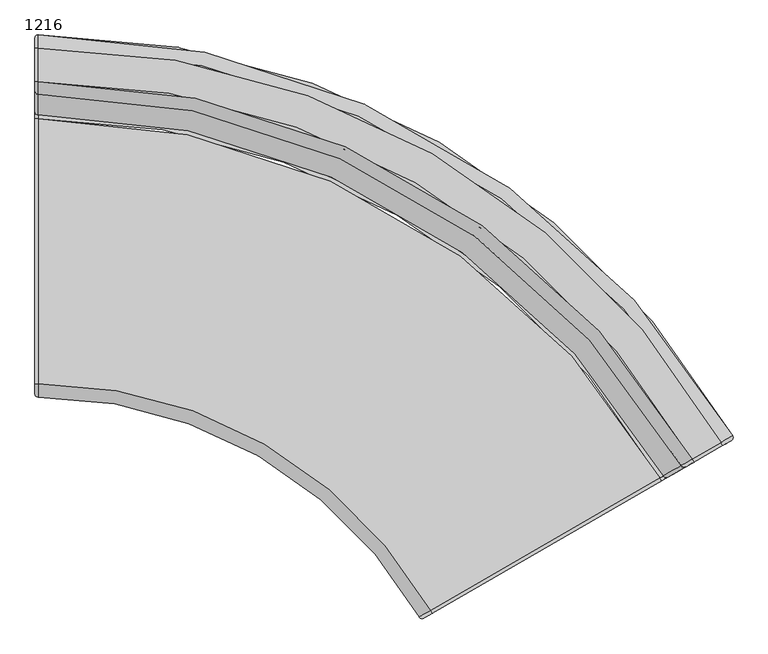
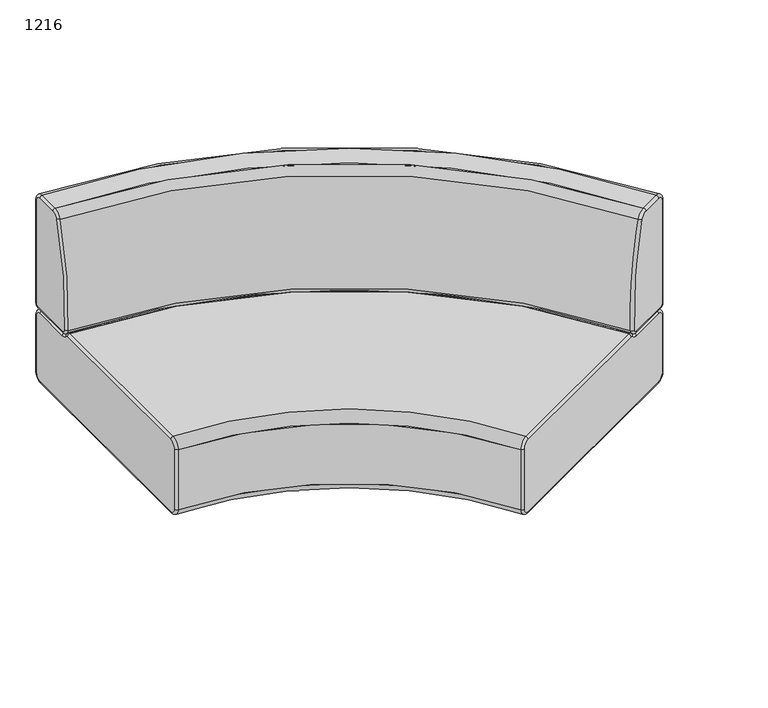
"""IFC4 building model written with IfcOpenShell, lengths in millimetres: furniture geometry, Laguna-Modular-Inside_Curve-ERG : 1216."""

from ifc_helpers import new_model, si_unit, point, frame, frame_2d, origin, place, context, project, spatial, polyline, circle_curve, ellipse_curve, trimmed, segment, composite_curve, outline, extrude, source, transform, mapped, element, save
from ifc_brep_helpers import plane_surface, cylinder_surface, revolved_surface, advanced_brep


def furniture_1216_0804f7a7(model_context):
    return source(origin(), model_context, "Body", "SolidModel", [
        extrude(outline(composite_curve([segment(polyline([(-4083.85374, 1166.2821108), (-4135.5467963, 1196.1271108)]), True, "CONTINUOUS"), segment(trimmed(circle_curve(frame_2d((-4133.0067963, 1200.5265198)), 5.08), [point((-4135.5467963, 1196.1271108))], [point((-4137.4062054, 1203.0665198))], False, "CARTESIAN"), True, "CONTINUOUS"), segment(polyline([(-4137.4062054, 1203.0665198), (-4117.7212054, 1237.16194)]), True, "CONTINUOUS"), segment(trimmed(circle_curve(frame_2d((-4113.3217963, 1234.62194)), 5.08), [point((-4117.7212054, 1237.16194))], [point((-4110.7817963, 1239.021349))], False, "CARTESIAN"), True, "CONTINUOUS"), segment(polyline([(-4110.7817963, 1239.021349), (-4059.08874, 1209.176349)]), True, "CONTINUOUS"), segment(trimmed(circle_curve(frame_2d((-4061.62874, 1204.77694)), 5.08), [point((-4059.08874, 1209.176349))], [point((-4057.2293309, 1202.23694))], False, "CARTESIAN"), True, "CONTINUOUS"), segment(polyline([(-4057.2293309, 1202.23694), (-4076.9143309, 1168.1415198)]), True, "CONTINUOUS"), segment(trimmed(circle_curve(frame_2d((-4081.31374, 1170.6815198)), 5.08), [point((-4076.9143309, 1168.1415198))], [point((-4083.85374, 1166.2821108))], False, "CARTESIAN"), True, "CONTINUOUS")], self_intersect=False)), frame((0.0, 0.0, 200.66), z_axis=(0.0, 0.0, 1.0), x_axis=(1.0, 0.0, 0.0)), (0.0, 0.0, 1.0), 2.54),
        advanced_brep(
        [(-4080.3002262, 1240.6130736, 10.16), (-4072.9510512, 1236.3700254, 10.16), (-4076.6256387, 1238.4915495, 10.16), (-4076.6256387, 1238.4915495, 0.0), (-4064.4334269, 1231.4523728, 0.0), (-4088.8178504, 1245.5307262, 0.0), (-4064.4334269, 1231.4523728, 3.9615026), (-4088.8178504, 1245.5307262, 3.9615026), (-4072.9510512, 1236.3700254, 3.9615026), (-4080.3002262, 1240.6130736, 3.9615026)],
        [
            (0, 1, circle_curve(frame((-4076.6256387, 1238.4915495, 10.16), z_axis=(0.0, 0.0, 1.0), x_axis=(0.866025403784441, -0.4999999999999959, 0.0)), 4.2430482)),
            (1, 2),
            (2, 0),
            (1, 0, circle_curve(frame((-4076.6256387, 1238.4915495, 10.16), z_axis=(0.0, 0.0, 1.0), x_axis=(0.866025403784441, -0.4999999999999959, 0.0)), 4.2430482)),
            (3, 4),
            (4, 5, circle_curve(frame((-4076.6256387, 1238.4915495, 0.0), z_axis=(0.0, 0.0, -1.0), x_axis=(0.866025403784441, -0.4999999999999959, 0.0)), 14.0783534)),
            (5, 3),
            (5, 4, circle_curve(frame((-4076.6256387, 1238.4915495, 0.0), z_axis=(0.0, 0.0, -1.0), x_axis=(0.866025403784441, -0.4999999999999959, 0.0)), 14.0783534)),
            (4, 6),
            (6, 7, circle_curve(frame((-4076.6256387, 1238.4915495, 3.9615026), z_axis=(0.0, 0.0, -1.0), x_axis=(0.866025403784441, -0.4999999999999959, 0.0)), 14.0783534)),
            (7, 5),
            (7, 6, circle_curve(frame((-4076.6256387, 1238.4915495, 3.9615026), z_axis=(0.0, 0.0, -1.0), x_axis=(0.866025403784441, -0.4999999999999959, 0.0)), 14.0783534)),
            (6, 8),
            (8, 9, circle_curve(frame((-4076.6256387, 1238.4915495, 3.9615026), z_axis=(0.0, 0.0, -1.0), x_axis=(0.866025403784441, -0.4999999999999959, 0.0)), 4.2430482)),
            (9, 7),
            (9, 8, circle_curve(frame((-4076.6256387, 1238.4915495, 3.9615026), z_axis=(0.0, 0.0, -1.0), x_axis=(0.866025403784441, -0.4999999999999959, 0.0)), 4.2430482)),
            (8, 1),
            (0, 9),
        ],
        [
            plane_surface(frame((-4076.6256387, 1238.4915495, 10.16), z_axis=(0.0, 0.0, 1.0), x_axis=(0.866025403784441, -0.4999999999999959, 0.0))),
            plane_surface(frame((-4076.6256387, 1238.4915495, 0.0), z_axis=(0.0, 0.0, -1.0), x_axis=(0.866025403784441, -0.4999999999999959, 0.0))),
            cylinder_surface(frame((-4076.6256387, 1238.4915495, 10.16), z_axis=(0.0, 0.0, -1.0), x_axis=(0.866025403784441, -0.4999999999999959, 0.0)), 14.0783534),
            plane_surface(frame((-4076.6256387, 1238.4915495, 3.9615026), z_axis=(0.0, 0.0, 1.0), x_axis=(0.866025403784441, -0.4999999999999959, 0.0))),
            cylinder_surface(frame((-4076.6256387, 1238.4915495, 10.16), z_axis=(0.0, 0.0, -1.0), x_axis=(0.866025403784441, -0.4999999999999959, 0.0)), 4.2430482),
        ],
        [
            (0, [[1, 2, 3]]),
            (0, [[4, -3, -2]]),
            (1, [[5, 6, 7]]),
            (1, [[-7, 8, -5]]),
            (2, [[-6, 9, 10, 11]]),
            (2, [[-8, -11, 12, -9]]),
            (3, [[-10, 13, 14, 15]]),
            (3, [[-12, -15, 16, -13]]),
            (4, [[-14, 17, -1, 18]]),
            (4, [[-16, -18, -4, -17]]),
        ],
    ),
        advanced_brep(
        [(-4088.0026245, 1218.786032, 207.1767944), (-4106.6329118, 1186.5174278, 199.2232056), (-4066.9751636, 1255.2066625, 10.16), (-4086.4543318, 1221.4677536, 10.16)],
        [
            (0, 1, circle_curve(frame((-4097.3177681, 1202.6517299, 203.2), z_axis=(-0.10437780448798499, -0.18078766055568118, 0.9779678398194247), x_axis=(-0.4889839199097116, -0.8469449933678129, -0.2087556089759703)), 19.05)),
            (1, 0, circle_curve(frame((-4097.3177681, 1202.6517299, 203.2), z_axis=(-0.10437780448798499, -0.18078766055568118, 0.9779678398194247), x_axis=(-0.4889839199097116, -0.8469449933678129, -0.2087556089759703)), 19.05)),
            (0, 2),
            (2, 3, ellipse_curve(frame((-4076.7147477, 1238.3372081, 10.16), z_axis=(0.0, 0.0, 1.0), x_axis=(-0.4999999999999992, -0.8660254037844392, 0.0)), 19.4791682, 19.05)),
            (3, 1),
            (3, 2, ellipse_curve(frame((-4076.7147477, 1238.3372081, 10.16), z_axis=(0.0, 0.0, 1.0), x_axis=(-0.4999999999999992, -0.8660254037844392, 0.0)), 19.4791682, 19.05)),
        ],
        [
            plane_surface(frame((-4097.3177681, 1202.6517299, 203.2), z_axis=(-0.10437780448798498, -0.18078766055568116, 0.9779678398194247), x_axis=(-0.8660254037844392, 0.4999999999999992, 0.0))),
            cylinder_surface(frame((-4097.3177681, 1202.6517299, 203.2), z_axis=(-0.10437780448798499, -0.18078766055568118, 0.9779678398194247), x_axis=(-0.4889839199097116, -0.8469449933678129, -0.2087556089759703)), 19.05),
            plane_surface(frame((-4130.6173223, 1235.5163759, 10.16), z_axis=(0.0, 0.0, -1.0), x_axis=(-0.4999999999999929, -0.8660254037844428, 0.0))),
        ],
        [
            (0, [[1, 2]]),
            (1, [[-1, 3, 4, 5]]),
            (1, [[-2, -5, 6, -3]]),
            (2, [[-4, -6]]),
        ],
    ),
        extrude(outline(composite_curve([segment(polyline([(-4068.6343555, 408.6898499), (-4098.4793555, 460.3829062)]), True, "CONTINUOUS"), segment(trimmed(circle_curve(frame_2d((-4094.0799465, 462.9229062)), 5.08), [point((-4098.4793555, 460.3829062))], [point((-4096.6199465, 467.3223153))], False, "CARTESIAN"), True, "CONTINUOUS"), segment(polyline([(-4096.6199465, 467.3223153), (-4062.5245263, 487.0073153)]), True, "CONTINUOUS"), segment(trimmed(circle_curve(frame_2d((-4059.9845263, 482.6079062)), 5.08), [point((-4062.5245263, 487.0073153))], [point((-4055.5851173, 485.1479062))], False, "CARTESIAN"), True, "CONTINUOUS"), segment(polyline([(-4055.5851173, 485.1479062), (-4025.7401173, 433.4548499)]), True, "CONTINUOUS"), segment(trimmed(circle_curve(frame_2d((-4030.1395263, 430.9148499)), 5.08), [point((-4025.7401173, 433.4548499))], [point((-4027.5995263, 426.5154408))], False, "CARTESIAN"), True, "CONTINUOUS"), segment(polyline([(-4027.5995263, 426.5154408), (-4061.6949465, 406.8304408)]), True, "CONTINUOUS"), segment(trimmed(circle_curve(frame_2d((-4064.2349465, 411.2298499)), 5.08), [point((-4061.6949465, 406.8304408))], [point((-4068.6343555, 408.6898499))], False, "CARTESIAN"), True, "CONTINUOUS")], self_intersect=False)), frame((0.0, 0.0, 200.66), z_axis=(0.0, 0.0, 1.0), x_axis=(1.0, 0.0, 0.0)), (0.0, 0.0, 1.0), 2.54),
        extrude(outline(composite_curve([segment(polyline([(-3599.3016078, 679.6592381), (-3629.1466078, 731.3522945)]), True, "CONTINUOUS"), segment(trimmed(circle_curve(frame_2d((-3624.7471988, 733.8922945)), 5.08), [point((-3629.1466078, 731.3522945))], [point((-3627.2871988, 738.2917035))], False, "CARTESIAN"), True, "CONTINUOUS"), segment(polyline([(-3627.2871988, 738.2917035), (-3593.1917786, 757.9767035)]), True, "CONTINUOUS"), segment(trimmed(circle_curve(frame_2d((-3590.6517786, 753.5772945)), 5.08), [point((-3593.1917786, 757.9767035))], [point((-3586.2523696, 756.1172945))], False, "CARTESIAN"), True, "CONTINUOUS"), segment(polyline([(-3586.2523696, 756.1172945), (-3556.4073696, 704.4242381)]), True, "CONTINUOUS"), segment(trimmed(circle_curve(frame_2d((-3560.8067786, 701.8842381)), 5.08), [point((-3556.4073696, 704.4242381))], [point((-3558.2667786, 697.484829))], False, "CARTESIAN"), True, "CONTINUOUS"), segment(polyline([(-3558.2667786, 697.484829), (-3592.3621988, 677.799829)]), True, "CONTINUOUS"), segment(trimmed(circle_curve(frame_2d((-3594.9021988, 682.1992381)), 5.08), [point((-3592.3621988, 677.799829))], [point((-3599.3016078, 679.6592381))], False, "CARTESIAN"), True, "CONTINUOUS")], self_intersect=False)), frame((0.0, 0.0, 200.66), z_axis=(0.0, 0.0, 1.0), x_axis=(1.0, 0.0, 0.0)), (0.0, 0.0, 1.0), 2.54),
        extrude(outline(composite_curve([segment(trimmed(circle_curve(frame_2d((-4739.5606322, 875.9836827)), 5.08), [point((-4739.5606322, 881.0636827))], [point((-4734.4806322, 875.9836827))], False, "CARTESIAN"), True, "CONTINUOUS"), segment(polyline([(-4734.4806322, 875.9836827), (-4734.4806322, 836.6136827)]), True, "CONTINUOUS"), segment(trimmed(circle_curve(frame_2d((-4739.5606322, 836.6136827)), 5.08), [point((-4734.4806322, 836.6136827))], [point((-4739.5606322, 831.5336827))], False, "CARTESIAN"), True, "CONTINUOUS"), segment(polyline([(-4739.5606322, 831.5336827), (-4799.2506322, 831.5336827)]), True, "CONTINUOUS"), segment(trimmed(circle_curve(frame_2d((-4799.2506322, 836.6136827)), 5.08), [point((-4799.2506322, 831.5336827))], [point((-4804.3306322, 836.6136827))], False, "CARTESIAN"), True, "CONTINUOUS"), segment(polyline([(-4804.3306322, 836.6136827), (-4804.3306322, 875.9836827)]), True, "CONTINUOUS"), segment(trimmed(circle_curve(frame_2d((-4799.2506322, 875.9836827)), 5.08), [point((-4804.3306322, 875.9836827))], [point((-4799.2506322, 881.0636827))], False, "CARTESIAN"), True, "CONTINUOUS"), segment(polyline([(-4799.2506322, 881.0636827), (-4739.5606322, 881.0636827)]), True, "CONTINUOUS")], self_intersect=False)), frame((0.0, 0.0, 200.66), z_axis=(0.0, 0.0, 1.0), x_axis=(1.0, 0.0, 0.0)), (0.0, 0.0, 1.0), 2.54),
        extrude(outline(composite_curve([segment(trimmed(circle_curve(frame_2d((-4739.5606322, 1416.9001303)), 5.08), [point((-4739.5606322, 1421.9801303))], [point((-4734.4806322, 1416.9001303))], False, "CARTESIAN"), True, "CONTINUOUS"), segment(polyline([(-4734.4806322, 1416.9001303), (-4734.4806322, 1377.5301303)]), True, "CONTINUOUS"), segment(trimmed(circle_curve(frame_2d((-4739.5606322, 1377.5301303)), 5.08), [point((-4734.4806322, 1377.5301303))], [point((-4739.5606322, 1372.4501303))], False, "CARTESIAN"), True, "CONTINUOUS"), segment(polyline([(-4739.5606322, 1372.4501303), (-4799.2506322, 1372.4501303)]), True, "CONTINUOUS"), segment(trimmed(circle_curve(frame_2d((-4799.2506322, 1377.5301303)), 5.08), [point((-4799.2506322, 1372.4501303))], [point((-4804.3306322, 1377.5301303))], False, "CARTESIAN"), True, "CONTINUOUS"), segment(polyline([(-4804.3306322, 1377.5301303), (-4804.3306322, 1416.9001303)]), True, "CONTINUOUS"), segment(trimmed(circle_curve(frame_2d((-4799.2506322, 1416.9001303)), 5.08), [point((-4804.3306322, 1416.9001303))], [point((-4799.2506322, 1421.9801303))], False, "CARTESIAN"), True, "CONTINUOUS"), segment(polyline([(-4799.2506322, 1421.9801303), (-4739.5606322, 1421.9801303)]), True, "CONTINUOUS")], self_intersect=False)), frame((0.0, 0.0, 200.66), z_axis=(0.0, 0.0, 1.0), x_axis=(1.0, 0.0, 0.0)), (0.0, 0.0, 1.0), 2.54),
        advanced_brep(
        [(-4832.9053779, 780.0986827, 228.6), (-4826.5553779, 773.7486827, 228.6), (-4826.5553779, 773.7486827, 406.4), (-4832.9053779, 780.0986827, 406.4), (-4832.9053779, 799.1486827, 425.45), (-4826.5553779, 799.1486827, 431.8), (-4826.5553779, 1301.2233489, 431.8), (-4832.9053779, 1301.2233489, 425.45), (-4826.5553779, 1312.6430873, 426.1507973), (-4832.9053779, 1307.5957246, 422.2976649), (-4826.5553779, 1326.8961182, 419.1), (-4832.9053779, 1326.8961182, 412.75), (-4826.5553779, 1435.2886296, 419.1), (-4832.9053779, 1435.2886296, 412.75), (-4826.5553779, 1460.6886296, 393.7), (-4832.9053779, 1454.3386296, 393.7), (-4826.5553779, 1460.6886296, 228.6), (-4832.9053779, 1454.3386296, 228.6), (-4826.5553779, 1435.2886296, 203.2), (-4832.9053779, 1435.2886296, 209.55), (-4826.5553779, 799.1486827, 203.2), (-4832.9053779, 799.1486827, 209.55), (-3647.3334372, 620.399244, 431.8), (-4082.1428527, 369.3619109, 431.8), (-3637.4436536, 626.1091132, 426.1507973), (-3625.1001667, 633.2356287, 419.1), (-3531.2295122, 687.4318763, 419.1), (-3509.2324531, 700.1318843, 393.7), (-3509.2324531, 700.1318843, 228.6000108), (-3531.2294983, 687.4318843, 203.2), (-4082.1428527, 369.3619109, 203.2), (-4104.139898, 356.6619109, 406.4), (-4104.139898, 356.6619109, 228.6), (-3528.0544983, 681.932623, 209.55), (-3511.5567144, 691.457623, 228.6), (-3511.5567144, 691.457623, 393.7), (-3528.0544983, 681.932623, 412.75), (-3621.9251667, 627.7363674, 412.75), (-3638.639798, 618.0861705, 422.2976649), (-3644.1584372, 614.8999827, 425.45), (-4078.9678527, 363.8626496, 425.45), (-4095.4656366, 354.3376496, 406.4), (-4095.4656366, 354.3376496, 228.6), (-4078.9678527, 363.8626496, 209.55)],
        [
            (0, 1, circle_curve(frame((-4826.5553779, 780.0986827, 228.6), z_axis=(0.0, 0.0, 1.0), x_axis=(0.0, 1.0, 0.0)), 6.35)),
            (1, 2),
            (2, 3, circle_curve(frame((-4826.5553779, 780.0986827, 406.4), z_axis=(0.0, 0.0, -1.0), x_axis=(0.0, 1.0, 0.0)), 6.35)),
            (3, 0),
            (4, 5, circle_curve(frame((-4826.5553779, 799.1486827, 425.45), z_axis=(0.0, 1.0, 0.0), x_axis=(0.0, 0.0, -1.0)), 6.35)),
            (5, 6),
            (6, 7, circle_curve(frame((-4826.5553779, 1301.2233489, 425.45), z_axis=(0.0, -1.0, 0.0), x_axis=(0.0, 0.0, -1.0)), 6.35)),
            (7, 4),
            (6, 8, circle_curve(frame((-4826.5553779, 1301.2233489, 417.4330241), z_axis=(-1.0, 0.0, 0.0), x_axis=(0.0, 0.0, 1.0)), 14.3669759)),
            (8, 9, circle_curve(frame((-4826.5553779, 1307.5957246, 422.2976649), z_axis=(0.0, -0.6067924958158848, 0.7948602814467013), x_axis=(0.0, -0.7948602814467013, -0.6067924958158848)), 6.35)),
            (9, 7, circle_curve(frame((-4832.9053779, 1301.2233489, 417.4330241), z_axis=(1.0, 0.0, 0.0), x_axis=(0.0, 0.0, 1.0)), 8.0169759)),
            (8, 10, circle_curve(frame((-4826.5553779, 1326.8961182, 437.0314921), z_axis=(1.0, 0.0, 0.0), x_axis=(0.0, -0.7948602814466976, -0.6067924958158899)), 17.9314921)),
            (10, 11, circle_curve(frame((-4826.5553779, 1326.8961182, 412.75), z_axis=(0.0, -1.0, 0.0), x_axis=(0.0, 0.0, -1.0)), 6.35)),
            (11, 9, circle_curve(frame((-4832.9053779, 1326.8961182, 437.0314921), z_axis=(-1.0, 0.0, 0.0), x_axis=(0.0, -0.7948602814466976, -0.6067924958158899)), 24.2814921)),
            (10, 12),
            (12, 13, circle_curve(frame((-4826.5553779, 1435.2886296, 412.75), z_axis=(0.0, -1.0, 0.0), x_axis=(0.0, 0.0, -1.0)), 6.35)),
            (13, 11),
            (12, 14, circle_curve(frame((-4826.5553779, 1435.2886296, 393.7), z_axis=(-1.0, 0.0, 0.0), x_axis=(0.0, 0.0, 1.0)), 25.4)),
            (14, 15, circle_curve(frame((-4826.5553779, 1454.3386296, 393.7), z_axis=(0.0, 0.0, 1.0), x_axis=(0.0, -1.0, 0.0)), 6.35)),
            (15, 13, circle_curve(frame((-4832.9053779, 1435.2886296, 393.7), z_axis=(1.0, 0.0, 0.0), x_axis=(0.0, 0.0, 1.0)), 19.05)),
            (14, 16),
            (16, 17, circle_curve(frame((-4826.5553779, 1454.3386296, 228.6), z_axis=(0.0, 0.0, 1.0), x_axis=(0.0, -1.0, 0.0)), 6.35)),
            (17, 15),
            (16, 18, circle_curve(frame((-4826.5553779, 1435.2886296, 228.6), z_axis=(-1.0, 0.0, 0.0), x_axis=(0.0, 1.0, 0.0)), 25.4)),
            (18, 19, circle_curve(frame((-4826.5553779, 1435.2886296, 209.55), z_axis=(0.0, 1.0, 0.0), x_axis=(0.0, 0.0, 1.0)), 6.35)),
            (19, 17, circle_curve(frame((-4832.9053779, 1435.2886296, 228.6), z_axis=(1.0, 0.0, 0.0), x_axis=(0.0, 1.0, 0.0)), 19.05)),
            (18, 20),
            (20, 21, circle_curve(frame((-4826.5553779, 799.1486827, 209.55), z_axis=(0.0, 1.0, 0.0), x_axis=(0.0, 0.0, 1.0)), 6.35)),
            (21, 19),
            (2, 5, circle_curve(frame((-4826.5553779, 799.1486827, 406.4), z_axis=(-1.0, 0.0, 0.0), x_axis=(0.0, -1.0, 0.0)), 25.4)),
            (4, 3, circle_curve(frame((-4832.9053779, 799.1486827, 406.4), z_axis=(1.0, 0.0, 0.0), x_axis=(0.0, -1.0, 0.0)), 19.05)),
            (0, 21, circle_curve(frame((-4832.9053779, 799.1486827, 228.6), z_axis=(1.0, 0.0, 0.0), x_axis=(0.0, 0.0, -1.0)), 19.05)),
            (20, 1, circle_curve(frame((-4826.5553779, 799.1486827, 228.6), z_axis=(-1.0, 0.0, 0.0), x_axis=(0.0, 0.0, -1.0)), 25.4)),
            (22, 6, circle_curve(frame((-4826.5553779, -60.4248609, 431.8), z_axis=(0.0, 0.0, 1.0), x_axis=(0.0, 1.0, 0.0)), 1361.6482098)),
            (5, 23, circle_curve(frame((-4826.5553779, -60.4248609, 431.8), z_axis=(0.0, 0.0, -1.0), x_axis=(0.0, 1.0, 0.0)), 859.5735436)),
            (23, 22),
            (22, 24, circle_curve(frame((-3647.3334372, 620.399244, 417.4330241), z_axis=(-0.49999999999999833, 0.8660254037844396, 0.0), x_axis=(0.8660254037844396, 0.49999999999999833, 0.0)), 14.3669759)),
            (24, 8, circle_curve(frame((-4826.5553779, -60.4248609, 426.1507973), z_axis=(0.0, 0.0, 1.0), x_axis=(0.0, 1.0, 0.0)), 1373.0679482)),
            (24, 25, circle_curve(frame((-3625.1001667, 633.2356287, 437.0314921), z_axis=(0.49999999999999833, -0.8660254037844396, 0.0), x_axis=(0.8660254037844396, 0.49999999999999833, 0.0)), 17.9314921)),
            (25, 10, circle_curve(frame((-4826.5553779, -60.4248609, 419.1), z_axis=(0.0, 0.0, 1.0), x_axis=(0.0, 1.0, 0.0)), 1387.3209791)),
            (25, 26),
            (26, 12, circle_curve(frame((-4826.5553779, -60.4248609, 419.1), z_axis=(0.0, 0.0, 1.0), x_axis=(0.0, 1.0, 0.0)), 1495.7134905)),
            (26, 27, circle_curve(frame((-3531.2294983, 687.4318843, 393.7), z_axis=(-0.49999999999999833, 0.8660254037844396, 0.0), x_axis=(0.8660254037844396, 0.49999999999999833, 0.0)), 25.4)),
            (27, 14, circle_curve(frame((-4826.5553779, -60.4248609, 393.7), z_axis=(0.0, 0.0, 1.0), x_axis=(0.0, 1.0, 0.0)), 1521.1134905)),
            (27, 28),
            (28, 16, circle_curve(frame((-4826.5553779, -60.4248609, 228.6), z_axis=(0.0, 0.0, 1.0), x_axis=(0.0, 1.0, 0.0)), 1521.1134905)),
            (28, 29, circle_curve(frame((-3531.2294983, 687.4318843, 228.6), z_axis=(-0.49999999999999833, 0.8660254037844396, 0.0), x_axis=(0.8660254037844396, 0.49999999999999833, 0.0)), 25.4)),
            (29, 18, circle_curve(frame((-4826.5553779, -60.4248609, 203.2), z_axis=(0.0, 0.0, 1.0), x_axis=(0.0, 1.0, 0.0)), 1495.7134905)),
            (29, 30),
            (30, 20, circle_curve(frame((-4826.5553779, -60.4248609, 203.2), z_axis=(0.0, 0.0, 1.0), x_axis=(0.0, 1.0, 0.0)), 859.5735436)),
            (31, 2, circle_curve(frame((-4826.5553779, -60.4248609, 406.4), z_axis=(0.0, 0.0, 1.0), x_axis=(0.0, 1.0, 0.0)), 834.1735436)),
            (1, 32, circle_curve(frame((-4826.5553779, -60.4248609, 228.6), z_axis=(0.0, 0.0, -1.0), x_axis=(0.0, 1.0, 0.0)), 834.1735436)),
            (32, 31),
            (31, 23, circle_curve(frame((-4082.1428527, 369.3619109, 406.4), z_axis=(-0.4999999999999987, 0.8660254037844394, 0.0), x_axis=(0.8660254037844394, 0.4999999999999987, 0.0)), 25.4)),
            (30, 32, circle_curve(frame((-4082.1428527, 369.3619109, 228.6), z_axis=(-0.4999999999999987, 0.8660254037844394, 0.0), x_axis=(0.8660254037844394, 0.4999999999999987, 0.0)), 25.4)),
            (33, 29, circle_curve(frame((-3531.2294983, 687.4318843, 209.55), z_axis=(0.8660254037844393, 0.499999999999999, 0.0), x_axis=(0.0, 0.0, 1.0)), 6.35)),
            (28, 34, circle_curve(frame((-3514.7317144, 696.9568843, 228.6), z_axis=(0.0, 0.0, -1.0), x_axis=(-0.8660254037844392, -0.4999999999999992, 0.0)), 6.35)),
            (34, 33, circle_curve(frame((-3528.0544983, 681.932623, 228.6), z_axis=(-0.499999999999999, 0.8660254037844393, 0.0), x_axis=(0.0, 0.0, -1.0)), 19.05)),
            (27, 35, circle_curve(frame((-3514.7317144, 696.9568843, 393.7), z_axis=(0.0, 0.0, -1.0), x_axis=(-0.8660254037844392, -0.4999999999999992, 0.0)), 6.35)),
            (35, 34),
            (26, 36, circle_curve(frame((-3531.2294983, 687.4318843, 412.75), z_axis=(0.8660254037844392, 0.4999999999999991, 0.0), x_axis=(0.0, 0.0, -1.0)), 6.35)),
            (36, 35, circle_curve(frame((-3528.0544983, 681.932623, 393.7), z_axis=(-0.499999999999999, 0.8660254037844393, 0.0), x_axis=(0.8660254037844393, 0.499999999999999, 0.0)), 19.05)),
            (25, 37, circle_curve(frame((-3625.1001667, 633.2356287, 412.75), z_axis=(0.8660254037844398, 0.49999999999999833, 0.0), x_axis=(0.0, 0.0, -1.0)), 6.35)),
            (37, 36),
            (24, 38, circle_curve(frame((-3641.814798, 623.5854318, 422.2976649), z_axis=(0.525497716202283, 0.30339624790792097, -0.7948602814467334), x_axis=(-0.6883691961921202, -0.3974301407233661, -0.6067924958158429)), 6.35)),
            (38, 37, circle_curve(frame((-3621.9251667, 627.7363674, 437.0314921), z_axis=(0.499999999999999, -0.8660254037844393, 0.0), x_axis=(0.0, 0.0, -1.0)), 24.2814921)),
            (22, 39, circle_curve(frame((-3647.3334372, 620.399244, 425.45), z_axis=(0.8660254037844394, 0.4999999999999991, 0.0), x_axis=(0.0, 0.0, -1.0000000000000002)), 6.35)),
            (39, 38, circle_curve(frame((-3644.1584372, 614.8999827, 417.4330241), z_axis=(-0.499999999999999, 0.8660254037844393, 0.0), x_axis=(0.6883691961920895, 0.3974301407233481, 0.6067924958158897)), 8.0169759)),
            (23, 40, circle_curve(frame((-4082.1428527, 369.3619109, 425.45), z_axis=(0.8660254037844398, 0.49999999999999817, 0.0), x_axis=(0.0, 0.0, -1.0)), 6.35)),
            (40, 39),
            (41, 31, circle_curve(frame((-4098.6406366, 359.8369109, 406.4), z_axis=(0.0, 0.0, -1.0), x_axis=(0.86602540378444, 0.49999999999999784, 0.0)), 6.35)),
            (32, 42, circle_curve(frame((-4098.6406366, 359.8369109, 228.6), z_axis=(0.0, 0.0, 1.0), x_axis=(0.86602540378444, 0.49999999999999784, 0.0)), 6.35)),
            (42, 41),
            (33, 43),
            (43, 30, circle_curve(frame((-4082.1428527, 369.3619109, 209.55), z_axis=(0.8660254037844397, 0.49999999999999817, 0.0), x_axis=(0.0, 0.0, 1.0)), 6.35)),
            (41, 40, circle_curve(frame((-4078.9678527, 363.8626496, 406.4), z_axis=(-0.49999999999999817, 0.8660254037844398, 0.0), x_axis=(0.0, 0.0, 1.0)), 19.05)),
            (43, 42, circle_curve(frame((-4078.9678527, 363.8626496, 228.6), z_axis=(-0.49999999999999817, 0.8660254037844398, 0.0), x_axis=(-0.8660254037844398, -0.49999999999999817, 0.0)), 19.05)),
        ],
        [
            cylinder_surface(frame((-4826.5553779, 780.0986827, 228.6), z_axis=(0.0, 0.0, -1.0), x_axis=(0.0, 1.0, 0.0)), 6.35),
            cylinder_surface(frame((-4826.5553779, 799.1486827, 425.45), z_axis=(0.0, -1.0, 0.0), x_axis=(0.0, 0.0, -1.0)), 6.35),
            revolved_surface(trimmed(ellipse_curve(frame((-4826.5553779, 1301.2233489, 425.45), z_axis=(0.0, -1.0, 0.0), x_axis=(0.0, 0.0, -1.0)), 6.35, 6.35), [point((-4826.5553779, 1301.2233489, 431.8))], [point((-4832.9053779, 1301.2233489, 425.45))], True, "CARTESIAN"), (-4826.5553779, 1301.2233489, 417.4330241), (-1.0, 0.0, 0.0)),
            revolved_surface(trimmed(ellipse_curve(frame((-4826.5553779, 1307.5957246, 422.2976649), z_axis=(0.0, -0.6067924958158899, 0.7948602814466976), x_axis=(0.0, -0.7948602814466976, -0.6067924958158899)), 6.35, 6.35), [point((-4826.5553779, 1312.6430873, 426.1507973))], [point((-4832.9053779, 1307.5957246, 422.2976649))], True, "CARTESIAN"), (-4826.5553779, 1326.8961182, 437.0314921), (1.0, 0.0, 0.0)),
            cylinder_surface(frame((-4826.5553779, 1326.8961182, 412.75), z_axis=(0.0, -1.0, 0.0), x_axis=(0.0, 0.0, -1.0)), 6.35),
            revolved_surface(trimmed(ellipse_curve(frame((-4826.5553779, 1435.2886296, 412.75), z_axis=(0.0, -1.0, 0.0), x_axis=(0.0, 0.0, -1.0)), 6.35, 6.35), [point((-4826.5553779, 1435.2886296, 419.1))], [point((-4832.9053779, 1435.2886296, 412.75))], True, "CARTESIAN"), (-4826.5553779, 1435.2886296, 393.7), (-1.0, 0.0, 0.0)),
            cylinder_surface(frame((-4826.5553779, 1454.3386296, 393.7), z_axis=(0.0, 0.0, 1.0), x_axis=(0.0, -1.0, 0.0)), 6.35),
            revolved_surface(trimmed(ellipse_curve(frame((-4826.5553779, 1454.3386296, 228.6), z_axis=(0.0, 0.0, 1.0), x_axis=(0.0, -1.0, 0.0)), 6.35, 6.35), [point((-4826.5553779, 1460.6886296, 228.6))], [point((-4832.9053779, 1454.3386296, 228.6))], True, "CARTESIAN"), (-4826.5553779, 1435.2886296, 228.6), (-1.0, 0.0, 0.0)),
            cylinder_surface(frame((-4826.5553779, 1435.2886296, 209.55), z_axis=(0.0, 1.0, 0.0), x_axis=(0.0, 0.0, 1.0)), 6.35),
            revolved_surface(trimmed(ellipse_curve(frame((-4826.5553779, 780.0986827, 406.4), z_axis=(0.0, 0.0, -1.0), x_axis=(0.0, 1.0, 0.0)), 6.35, 6.35), [point((-4826.5553779, 773.7486827, 406.4))], [point((-4832.9053779, 780.0986827, 406.4))], True, "CARTESIAN"), (-4826.5553779, 799.1486827, 406.4), (-1.0, 0.0, 0.0)),
            revolved_surface(trimmed(ellipse_curve(frame((-4826.5553779, 799.1486827, 209.55), z_axis=(0.0, 1.0, 0.0), x_axis=(0.0, 0.0, 1.0)), 6.35, 6.35), [point((-4826.5553779, 799.1486827, 203.2))], [point((-4832.9053779, 799.1486827, 209.55))], True, "CARTESIAN"), (-4826.5553779, 799.1486827, 228.6), (-1.0, 0.0, 0.0)),
            plane_surface(frame((-4832.9053779, 1454.3386296, 228.6), z_axis=(-1.0, 0.0, 0.0), x_axis=(0.0, 0.0, -1.0))),
            plane_surface(frame((-4826.5553779, -60.4248609, 431.8), z_axis=(0.0, 0.0, 1.0), x_axis=(0.0, 1.0, 0.0))),
            revolved_surface(trimmed(ellipse_curve(frame((-4826.5553779, 1301.2233489, 417.4330241), z_axis=(-1.0, 0.0, 0.0), x_axis=(0.0, 1.0, 0.0)), 14.3669759, 14.3669759), [point((-4826.5553779, 1301.2233489, 431.8))], [point((-4826.5553779, 1312.6430873, 426.1507973))], True, "CARTESIAN"), (-4826.5553779, -60.4248609, 0.0), (0.0, 0.0, -1.0)),
            revolved_surface(trimmed(ellipse_curve(frame((-4826.5553779, 1326.8961182, 437.0314921), z_axis=(1.0, 0.0, 0.0), x_axis=(0.0, 1.0, 0.0)), 17.9314921, 17.9314921), [point((-4826.5553779, 1312.6430873, 426.1507973))], [point((-4826.5553779, 1326.8961182, 419.1))], True, "CARTESIAN"), (-4826.5553779, -60.4248609, 0.0), (0.0, 0.0, -1.0)),
            plane_surface(frame((-4826.5553779, -60.4248609, 419.1), z_axis=(0.0, 0.0, 1.0), x_axis=(0.0, 1.0, 0.0))),
            revolved_surface(trimmed(ellipse_curve(frame((-4826.5553779, 1435.2886296, 393.7), z_axis=(-1.0, 0.0, 0.0), x_axis=(0.0, 1.0, 0.0)), 25.4, 25.4), [point((-4826.5553779, 1435.2886296, 419.1))], [point((-4826.5553779, 1460.6886296, 393.7))], True, "CARTESIAN"), (-4826.5553779, -60.4248609, 0.0), (0.0, 0.0, -1.0)),
            cylinder_surface(frame((-4826.5553779, -60.4248609, 0.0), z_axis=(0.0, 0.0, -1.0), x_axis=(0.0, 1.0, 0.0)), 1521.1134905),
            revolved_surface(trimmed(ellipse_curve(frame((-4826.5553779, 1435.2886296, 228.6), z_axis=(-1.0, 0.0, 0.0), x_axis=(0.0, 1.0, 0.0)), 25.4, 25.4), [point((-4826.5553779, 1460.6886296, 228.6))], [point((-4826.5553779, 1435.2886296, 203.2))], True, "CARTESIAN"), (-4826.5553779, -60.4248609, 0.0), (0.0, 0.0, -1.0)),
            plane_surface(frame((-4826.5553779, -60.4248609, 203.2), z_axis=(0.0, 0.0, -1.0), x_axis=(0.0, 1.0, 0.0))),
            revolved_surface(polyline([(-4826.5553779, 773.7486827, 228.6), (-4826.5553779, 773.7486827, 406.4)]), (-4826.5553779, -60.4248609, 0.0), (0.0, 0.0, -1.0)),
            revolved_surface(trimmed(ellipse_curve(frame((-4826.5553779, 799.1486827, 406.4), z_axis=(-1.0, 0.0, 0.0), x_axis=(0.0, 1.0, 0.0)), 25.4, 25.4), [point((-4826.5553779, 773.7486827, 406.4))], [point((-4826.5553779, 799.1486827, 431.8))], True, "CARTESIAN"), (-4826.5553779, -60.4248609, 0.0), (0.0, 0.0, -1.0)),
            revolved_surface(trimmed(ellipse_curve(frame((-4826.5553779, 799.1486827, 228.6), z_axis=(-1.0, 0.0, 0.0), x_axis=(0.0, 1.0, 0.0)), 25.4, 25.4), [point((-4826.5553779, 799.1486827, 203.2))], [point((-4826.5553779, 773.7486827, 228.6))], True, "CARTESIAN"), (-4826.5553779, -60.4248609, 0.0), (0.0, 0.0, -1.0)),
            revolved_surface(trimmed(ellipse_curve(frame((-3531.2294983, 687.4318843, 209.55), z_axis=(-0.8660254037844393, -0.499999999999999, 0.0), x_axis=(0.0, 0.0, 1.0)), 6.35, 6.35), [point((-3531.2294983, 687.4318843, 203.2))], [point((-3528.0544983, 681.932623, 209.55))], True, "CARTESIAN"), (-3531.2294983, 687.4318843, 228.6), (0.499999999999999, -0.8660254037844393, 0.0)),
            cylinder_surface(frame((-3514.7317144, 696.9568843, 228.6), z_axis=(0.0, 0.0, -1.0000000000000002), x_axis=(-0.8660254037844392, -0.4999999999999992, 0.0)), 6.35),
            revolved_surface(trimmed(ellipse_curve(frame((-3514.7317144, 696.9568843, 393.7), z_axis=(0.0, 0.0, -1.0), x_axis=(-0.8660254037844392, -0.4999999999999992, 0.0)), 6.35, 6.35), [point((-3509.2324531, 700.1318843, 393.7))], [point((-3511.5567144, 691.457623, 393.7))], True, "CARTESIAN"), (-3531.2294983, 687.4318843, 393.7), (0.499999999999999, -0.8660254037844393, 0.0)),
            cylinder_surface(frame((-3531.2294983, 687.4318843, 412.75), z_axis=(0.8660254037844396, 0.4999999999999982, 0.0), x_axis=(0.0, 0.0, -1.0)), 6.35),
            revolved_surface(trimmed(ellipse_curve(frame((-3625.1001667, 633.2356287, 412.75), z_axis=(0.8660254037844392, 0.4999999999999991, 0.0), x_axis=(0.0, 0.0, -1.0)), 6.35, 6.35), [point((-3625.1001667, 633.2356287, 419.1))], [point((-3621.9251667, 627.7363674, 412.75))], True, "CARTESIAN"), (-3625.1001667, 633.2356287, 437.0314921), (-0.499999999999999, 0.8660254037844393, 0.0)),
            revolved_surface(trimmed(ellipse_curve(frame((-3641.814798, 623.5854318, 422.2976649), z_axis=(0.5254977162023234, 0.30339624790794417, -0.794860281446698), x_axis=(-0.6883691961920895, -0.3974301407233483, -0.6067924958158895)), 6.35, 6.35), [point((-3637.4436536, 626.1091132, 426.1507973))], [point((-3638.639798, 618.0861705, 422.2976649))], True, "CARTESIAN"), (-3647.3334372, 620.399244, 417.4330241), (0.499999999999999, -0.8660254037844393, 0.0)),
            cylinder_surface(frame((-3647.3334372, 620.399244, 425.45), z_axis=(0.8660254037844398, 0.49999999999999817, 0.0), x_axis=(0.0, 0.0, -1.0)), 6.35),
            cylinder_surface(frame((-4098.6406366, 359.8369109, 406.4), z_axis=(0.0, 0.0, 1.0000000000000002), x_axis=(0.86602540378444, 0.49999999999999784, 0.0)), 6.35),
            cylinder_surface(frame((-4082.1428527, 369.3619109, 209.55), z_axis=(-0.8660254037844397, -0.49999999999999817, 0.0), x_axis=(0.0, 0.0, 1.0)), 6.35),
            revolved_surface(trimmed(ellipse_curve(frame((-4082.1428527, 369.3619109, 425.45), z_axis=(0.8660254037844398, 0.49999999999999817, 0.0), x_axis=(0.0, 0.0, -1.0)), 6.35, 6.35), [point((-4082.1428527, 369.3619109, 431.8))], [point((-4078.9678527, 363.8626496, 425.45))], True, "CARTESIAN"), (-4082.1428527, 369.3619109, 406.4), (0.49999999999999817, -0.8660254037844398, 0.0)),
            revolved_surface(trimmed(ellipse_curve(frame((-4098.6406366, 359.8369109, 228.6), z_axis=(0.0, 0.0, 1.0000000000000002), x_axis=(0.86602540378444, 0.49999999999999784, 0.0)), 6.35, 6.35), [point((-4104.139898, 356.6619109, 228.6))], [point((-4095.4656366, 354.3376496, 228.6))], True, "CARTESIAN"), (-4082.1428527, 369.3619109, 228.6), (0.49999999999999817, -0.8660254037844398, 0.0)),
            plane_surface(frame((-4078.9678527, 363.8626496, 425.45), z_axis=(0.4999999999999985, -0.8660254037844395, 0.0), x_axis=(-0.8660254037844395, -0.4999999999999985, 0.0))),
        ],
        [
            (0, [[1, 2, 3, 4]]),
            (1, [[5, 6, 7, 8]]),
            (2, [[-7, 9, 10, 11]]),
            (3, [[-10, 12, 13, 14]]),
            (4, [[-13, 15, 16, 17]]),
            (5, [[-16, 18, 19, 20]]),
            (6, [[-19, 21, 22, 23]]),
            (7, [[-22, 24, 25, 26]]),
            (8, [[-25, 27, 28, 29]]),
            (9, [[-3, 30, -5, 31]]),
            (10, [[-1, 32, -28, 33]]),
            (11, [[-4, -31, -8, -11, -14, -17, -20, -23, -26, -29, -32]]),
            (12, [[34, -6, 35, 36]]),
            (13, [[-34, 37, 38, -9]]),
            (14, [[-38, 39, 40, -12]]),
            (15, [[-40, 41, 42, -15]]),
            (16, [[-42, 43, 44, -18]]),
            (17, [[-44, 45, 46, -21]]),
            (18, [[-46, 47, 48, -24]]),
            (19, [[-48, 49, 50, -27]]),
            (20, [[51, -2, 52, 53]]),
            (21, [[-35, -30, -51, 54]]),
            (22, [[-50, 55, -52, -33]]),
            (23, [[56, -47, 57, 58]]),
            (24, [[-57, -45, 59, 60]]),
            (25, [[-59, -43, 61, 62]]),
            (26, [[-61, -41, 63, 64]]),
            (27, [[-63, -39, 65, 66]]),
            (28, [[-65, -37, 67, 68]]),
            (29, [[-67, -36, 69, 70]]),
            (30, [[71, -53, 72, 73]]),
            (31, [[-56, 74, 75, -49]]),
            (32, [[-69, -54, -71, 76]]),
            (33, [[-72, -55, -75, 77]]),
            (34, [[-58, -60, -62, -64, -66, -68, -70, -76, -73, -77, -74]]),
        ],
    ),
        advanced_brep(
        [(-3582.8492049, 650.2968844, 755.65), (-3586.0242049, 655.7961457, 762.0), (-3606.9607193, 643.7084435, 744.3916508), (-3598.5515907, 641.2311078, 742.4437381), (-3640.6001768, 624.2866937, 435.9339217), (-3631.9362268, 621.9564791, 436.3225994), (-3625.1001667, 633.2356287, 419.1), (-3621.9251667, 627.7363674, 425.45), (-3520.2309757, 693.7818843, 419.1), (-3517.0559757, 688.282623, 425.45), (-3509.2324531, 700.1318843, 431.8), (-3511.5567144, 691.457623, 431.8), (-3509.2324531, 700.1318843, 736.6), (-3511.5567144, 691.457623, 736.6), (-3531.2294983, 687.4318843, 762.0), (-3528.0544983, 681.932623, 755.65), (-4826.5553779, 1372.0171524, 762.0), (-4826.5553779, 1347.841748, 744.3916508), (-4826.5553779, 1435.2886296, 762.0), (-4826.5553779, 1460.6886296, 736.6), (-4826.5553779, 1460.6886296, 431.8), (-4826.5553779, 1447.9886296, 419.1), (-4826.5553779, 1326.8961182, 419.1), (-4826.5553779, 1308.9982483, 435.9339217), (-4832.9053779, 1454.3386296, 431.8), (-4832.9053779, 1447.9886296, 425.45), (-4832.9053779, 1326.8961182, 425.45), (-4832.9053779, 1315.3363418, 436.3225994), (-4832.9053779, 1353.8855991, 742.4437381), (-4832.9053779, 1372.0171524, 755.65), (-4832.9053779, 1435.2886296, 755.65), (-4832.9053779, 1454.3386296, 736.6)],
        [
            (0, 1, circle_curve(frame((-3586.0242049, 655.7961457, 755.65), z_axis=(-0.86602540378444, -0.49999999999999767, 0.0), x_axis=(0.0, 0.0, -1.0)), 6.35)),
            (1, 2, circle_curve(frame((-3586.0242049, 655.7961457, 736.6), z_axis=(0.4999999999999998, -0.8660254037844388, 0.0), x_axis=(0.0, 0.0, 1.0)), 25.4)),
            (2, 3, circle_curve(frame((-3601.7265907, 646.7303691, 742.4437381), z_axis=(0.26566013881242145, 0.15337895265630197, 0.9517875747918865), x_axis=(0.8242722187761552, 0.47589378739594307, -0.30675790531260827)), 6.35)),
            (3, 0, circle_curve(frame((-3582.8492049, 650.2968844, 736.6), z_axis=(-0.4999999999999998, 0.8660254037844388, 0.0), x_axis=(0.0, 0.0, 1.0)), 19.05)),
            (2, 4, circle_curve(frame((-2915.9935025, 1042.6385521, 487.2440105), z_axis=(0.4999999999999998, -0.8660254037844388, 0.0), x_axis=(-0.8242722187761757, -0.47589378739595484, 0.306757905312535)), 838.2755126)),
            (4, 5, circle_curve(frame((-3635.1112268, 627.4557404, 436.3225994), z_axis=(-0.05300863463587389, -0.03060454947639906, 0.9981249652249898), x_axis=(0.8644015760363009, 0.49906248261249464, 0.06120909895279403)), 6.35)),
            (5, 3, circle_curve(frame((-2912.8185025, 1037.1392908, 487.2440105), z_axis=(-0.4999999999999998, 0.8660254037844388, 0.0), x_axis=(-0.8242722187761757, -0.47589378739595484, 0.306757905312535)), 831.9255126)),
            (4, 6, circle_curve(frame((-3625.1001667, 633.2356287, 437.0314921), z_axis=(0.4999999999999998, -0.8660254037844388, 0.0), x_axis=(-0.8644015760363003, -0.4990624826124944, -0.06120909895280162)), 17.9314921)),
            (6, 7, circle_curve(frame((-3625.1001667, 633.2356287, 425.45), z_axis=(-0.8660254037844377, -0.5000000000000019, 0.0), x_axis=(0.0, 0.0, 1.0)), 6.35)),
            (7, 5, circle_curve(frame((-3621.9251667, 627.7363674, 437.0314921), z_axis=(-0.4999999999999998, 0.8660254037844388, 0.0), x_axis=(-0.8644015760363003, -0.4990624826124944, -0.06120909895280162)), 11.5814921)),
            (6, 8),
            (8, 9, circle_curve(frame((-3520.2309757, 693.7818843, 425.45), z_axis=(-0.8660254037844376, -0.5000000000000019, 0.0), x_axis=(0.0, 0.0, 1.0)), 6.35)),
            (9, 7),
            (8, 10, circle_curve(frame((-3520.2309757, 693.7818843, 431.8), z_axis=(0.4999999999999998, -0.8660254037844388, 0.0), x_axis=(0.0, 0.0, -1.0)), 12.7)),
            (10, 11, circle_curve(frame((-3514.7317144, 696.9568843, 431.8), z_axis=(0.0, 0.0, -1.0), x_axis=(-0.8660254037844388, -0.49999999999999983, 0.0)), 6.35)),
            (11, 9, circle_curve(frame((-3517.0559757, 688.282623, 431.8), z_axis=(-0.4999999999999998, 0.8660254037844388, 0.0), x_axis=(0.0, 0.0, -1.0)), 6.35)),
            (10, 12),
            (12, 13, circle_curve(frame((-3514.7317144, 696.9568843, 736.6), z_axis=(0.0, 0.0, -1.0), x_axis=(-0.8660254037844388, -0.49999999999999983, 0.0)), 6.35)),
            (13, 11),
            (12, 14, circle_curve(frame((-3531.2294983, 687.4318843, 736.6), z_axis=(0.4999999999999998, -0.8660254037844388, 0.0), x_axis=(0.8660254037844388, 0.4999999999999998, 0.0)), 25.4)),
            (14, 15, circle_curve(frame((-3531.2294983, 687.4318843, 755.65), z_axis=(0.86602540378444, 0.4999999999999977, 0.0), x_axis=(0.0, 0.0, -1.0)), 6.35)),
            (15, 13, circle_curve(frame((-3528.0544983, 681.932623, 736.6), z_axis=(-0.4999999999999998, 0.8660254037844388, 0.0), x_axis=(0.8660254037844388, 0.4999999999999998, 0.0)), 19.05)),
            (0, 15),
            (14, 1),
            (1, 16, circle_curve(frame((-4826.5553779, -60.4248609, 762.0), z_axis=(0.0, 0.0, 1.0), x_axis=(0.0, 1.0, 0.0)), 1432.4420133)),
            (16, 17, circle_curve(frame((-4826.5553779, 1372.0171524, 736.6), z_axis=(1.0, 0.0, 0.0), x_axis=(0.0, 1.0, 0.0)), 25.4)),
            (17, 2, circle_curve(frame((-4826.5553779, -60.4248609, 744.3916508), z_axis=(0.0, 0.0, -1.0), x_axis=(0.0, 1.0, 0.0)), 1408.2666089)),
            (14, 18, circle_curve(frame((-4826.5553779, -60.4248609, 762.0), z_axis=(0.0, 0.0, 1.0), x_axis=(0.0, 1.0, 0.0)), 1495.7134905)),
            (18, 16),
            (12, 19, circle_curve(frame((-4826.5553779, -60.4248609, 736.6), z_axis=(0.0, 0.0, 1.0), x_axis=(0.0, 1.0, 0.0)), 1521.1134905)),
            (19, 18, circle_curve(frame((-4826.5553779, 1435.2886296, 736.6), z_axis=(1.0, 0.0, 0.0), x_axis=(0.0, 1.0, 0.0)), 25.4)),
            (10, 20, circle_curve(frame((-4826.5553779, -60.4248609, 431.8), z_axis=(0.0, 0.0, 1.0), x_axis=(0.0, 1.0, 0.0)), 1521.1134905)),
            (20, 19),
            (8, 21, circle_curve(frame((-4826.5553779, -60.4248609, 419.1), z_axis=(0.0, 0.0, 1.0), x_axis=(0.0, 1.0, 0.0)), 1508.4134905)),
            (21, 20, circle_curve(frame((-4826.5553779, 1447.9886296, 431.8), z_axis=(1.0, 0.0, 0.0), x_axis=(0.0, 1.0, 0.0)), 12.7)),
            (6, 22, circle_curve(frame((-4826.5553779, -60.4248609, 419.1), z_axis=(0.0, 0.0, 1.0), x_axis=(0.0, 1.0, 0.0)), 1387.3209791)),
            (22, 21),
            (4, 23, circle_curve(frame((-4826.5553779, -60.4248609, 435.9339217), z_axis=(0.0, 0.0, 1.0), x_axis=(0.0, 1.0, 0.0)), 1369.4231092)),
            (23, 22, circle_curve(frame((-4826.5553779, 1326.8961182, 437.0314921), z_axis=(1.0, 0.0, 0.0), x_axis=(0.0, 1.0, 0.0)), 17.9314921)),
            (17, 23, circle_curve(frame((-4826.5553779, 2145.7019651, 487.2440105), z_axis=(1.0, 0.0, 0.0), x_axis=(0.0, 1.0, 0.0)), 838.2755126)),
            (24, 20, circle_curve(frame((-4826.5553779, 1454.3386296, 431.8), z_axis=(0.0, 0.0, -1.0), x_axis=(-1.0, 0.0, 0.0)), 6.35)),
            (21, 25, circle_curve(frame((-4826.5553779, 1447.9886296, 425.45), z_axis=(0.0, 1.0, 0.0), x_axis=(-1.0, 0.0, 0.0)), 6.35)),
            (25, 24, circle_curve(frame((-4832.9053779, 1447.9886296, 431.8), z_axis=(1.0, 0.0, 0.0), x_axis=(0.0, 1.0, 0.0)), 6.35)),
            (22, 26, circle_curve(frame((-4826.5553779, 1326.8961182, 425.45), z_axis=(0.0, 1.0, 0.0), x_axis=(-1.0, 0.0, 0.0)), 6.35)),
            (26, 25),
            (23, 27, circle_curve(frame((-4826.5553779, 1315.3363418, 436.3225994), z_axis=(0.0, 0.06120909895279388, -0.9981249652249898), x_axis=(-1.0, 0.0, 0.0)), 6.35)),
            (27, 26, circle_curve(frame((-4832.9053779, 1326.8961182, 437.0314921), z_axis=(1.0, 0.0, 0.0), x_axis=(0.0, 0.0, -1.0)), 11.5814921)),
            (17, 28, circle_curve(frame((-4826.5553779, 1353.8855991, 742.4437381), z_axis=(0.0, -0.306757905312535, -0.9517875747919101), x_axis=(-1.0, 0.0, 0.0)), 6.35)),
            (28, 27, circle_curve(frame((-4832.9053779, 2145.7019651, 487.2440105), z_axis=(1.0, 0.0, 0.0), x_axis=(0.0, -0.9981249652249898, -0.06120909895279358)), 831.9255126)),
            (16, 29, circle_curve(frame((-4826.5553779, 1372.0171524, 755.65), z_axis=(0.0, -1.0, 0.0), x_axis=(-1.0, 0.0, 0.0)), 6.35)),
            (29, 28, circle_curve(frame((-4832.9053779, 1372.0171524, 736.6), z_axis=(1.0, 0.0, 0.0), x_axis=(0.0, -0.95178757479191, 0.3067579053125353)), 19.05)),
            (18, 30, circle_curve(frame((-4826.5553779, 1435.2886296, 755.65), z_axis=(0.0, -1.0, 0.0), x_axis=(-1.0, 0.0, 0.0)), 6.35)),
            (30, 29),
            (19, 31, circle_curve(frame((-4826.5553779, 1454.3386296, 736.6), z_axis=(0.0, 0.0, 1.0), x_axis=(-1.0, 0.0, 0.0)), 6.35)),
            (31, 30, circle_curve(frame((-4832.9053779, 1435.2886296, 736.6), z_axis=(1.0, 0.0, 0.0), x_axis=(0.0, 0.0, 1.0)), 19.05)),
            (24, 31),
        ],
        [
            revolved_surface(trimmed(ellipse_curve(frame((-3586.0242049, 655.7961457, 755.65), z_axis=(0.86602540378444, 0.49999999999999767, 0.0), x_axis=(0.0, 0.0, -1.0)), 6.35, 6.35), [point((-3586.0242049, 655.7961457, 762.0))], [point((-3582.8492049, 650.2968844, 755.65))], True, "CARTESIAN"), (-3586.0242049, 655.7961457, 736.6), (0.4999999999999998, -0.8660254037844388, 0.0)),
            revolved_surface(trimmed(ellipse_curve(frame((-3601.7265907, 646.7303691, 742.4437381), z_axis=(0.26566013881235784, 0.15337895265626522, 0.9517875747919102), x_axis=(0.8242722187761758, 0.47589378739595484, -0.3067579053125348)), 6.35, 6.35), [point((-3606.9607193, 643.7084435, 744.3916508))], [point((-3598.5515907, 641.2311078, 742.4437381))], True, "CARTESIAN"), (-2915.9935025, 1042.6385521, 487.2440105), (0.4999999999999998, -0.8660254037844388, 0.0)),
            revolved_surface(trimmed(ellipse_curve(frame((-3635.1112268, 627.4557404, 436.3225994), z_axis=(-0.05300863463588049, -0.03060454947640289, 0.9981249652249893), x_axis=(0.8644015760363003, 0.4990624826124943, 0.061209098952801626)), 6.35, 6.35), [point((-3640.6001768, 624.2866937, 435.9339217))], [point((-3631.9362268, 621.9564791, 436.3225994))], True, "CARTESIAN"), (-3625.1001667, 633.2356287, 437.0314921), (0.4999999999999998, -0.8660254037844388, 0.0)),
            cylinder_surface(frame((-3625.1001667, 633.2356287, 425.45), z_axis=(-0.8660254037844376, -0.5000000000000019, 0.0), x_axis=(0.0, 0.0, 1.0)), 6.35),
            revolved_surface(trimmed(ellipse_curve(frame((-3520.2309757, 693.7818843, 425.45), z_axis=(-0.8660254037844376, -0.5000000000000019, 0.0), x_axis=(0.0, 0.0, 1.0)), 6.35, 6.35), [point((-3520.2309757, 693.7818843, 419.1))], [point((-3517.0559757, 688.282623, 425.45))], True, "CARTESIAN"), (-3520.2309757, 693.7818843, 431.8), (0.4999999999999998, -0.8660254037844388, 0.0)),
            cylinder_surface(frame((-3514.7317144, 696.9568843, 431.8), z_axis=(0.0, 0.0, -1.0000000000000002), x_axis=(-0.8660254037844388, -0.49999999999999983, 0.0)), 6.35),
            revolved_surface(trimmed(ellipse_curve(frame((-3514.7317144, 696.9568843, 736.6), z_axis=(0.0, 0.0, -1.0), x_axis=(-0.8660254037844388, -0.4999999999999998, 0.0)), 6.35, 6.35), [point((-3509.2324531, 700.1318843, 736.6))], [point((-3511.5567144, 691.457623, 736.6))], True, "CARTESIAN"), (-3531.2294983, 687.4318843, 736.6), (0.4999999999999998, -0.8660254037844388, 0.0)),
            cylinder_surface(frame((-3531.2294983, 687.4318843, 755.65), z_axis=(0.8660254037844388, 0.49999999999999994, 0.0), x_axis=(0.0, 0.0, -1.0)), 6.35),
            plane_surface(frame((-3511.5567144, 691.457623, 736.6), z_axis=(0.49999999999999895, -0.8660254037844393, 0.0), x_axis=(0.0, 0.0, 1.0))),
            revolved_surface(trimmed(ellipse_curve(frame((-4826.5553779, 1372.0171524, 736.6), z_axis=(-1.0, 0.0, 0.0), x_axis=(0.0, 1.0, 0.0)), 25.4, 25.4), [point((-4826.5553779, 1347.841748, 744.3916508))], [point((-4826.5553779, 1372.0171524, 762.0))], True, "CARTESIAN"), (-4826.5553779, -60.4248609, 0.0), (0.0, 0.0, -1.0)),
            plane_surface(frame((-4826.5553779, -60.4248609, 762.0), z_axis=(0.0, 0.0, 1.0), x_axis=(0.0, 1.0, 0.0))),
            revolved_surface(trimmed(ellipse_curve(frame((-4826.5553779, 1435.2886296, 736.6), z_axis=(-1.0, 0.0, 0.0), x_axis=(0.0, 1.0, 0.0)), 25.4, 25.4), [point((-4826.5553779, 1435.2886296, 762.0))], [point((-4826.5553779, 1460.6886296, 736.6))], True, "CARTESIAN"), (-4826.5553779, -60.4248609, 0.0), (0.0, 0.0, -1.0)),
            cylinder_surface(frame((-4826.5553779, -60.4248609, 0.0), z_axis=(0.0, 0.0, -1.0), x_axis=(0.0, 1.0, 0.0)), 1521.1134905),
            revolved_surface(trimmed(ellipse_curve(frame((-4826.5553779, 1447.9886296, 431.8), z_axis=(-1.0, 0.0, 0.0), x_axis=(0.0, 1.0, 0.0)), 12.7, 12.7), [point((-4826.5553779, 1460.6886296, 431.8))], [point((-4826.5553779, 1447.9886296, 419.1))], True, "CARTESIAN"), (-4826.5553779, -60.4248609, 0.0), (0.0, 0.0, -1.0)),
            plane_surface(frame((-4826.5553779, -60.4248609, 419.1), z_axis=(0.0, 0.0, -1.0), x_axis=(0.0, 1.0, 0.0))),
            revolved_surface(trimmed(ellipse_curve(frame((-4826.5553779, 1326.8961182, 437.0314921), z_axis=(-1.0, 0.0, 0.0), x_axis=(0.0, 1.0, 0.0)), 17.9314921, 17.9314921), [point((-4826.5553779, 1326.8961182, 419.1))], [point((-4826.5553779, 1308.9982483, 435.9339217))], True, "CARTESIAN"), (-4826.5553779, -60.4248609, 0.0), (0.0, 0.0, -1.0)),
            revolved_surface(trimmed(ellipse_curve(frame((-4826.5553779, 2145.7019651, 487.2440105), z_axis=(-1.0, 0.0, 0.0), x_axis=(0.0, 1.0, 0.0)), 838.2755126, 838.2755126), [point((-4826.5553779, 1308.9982483, 435.9339217))], [point((-4826.5553779, 1347.841748, 744.3916508))], True, "CARTESIAN"), (-4826.5553779, -60.4248609, 0.0), (0.0, 0.0, -1.0)),
            revolved_surface(trimmed(ellipse_curve(frame((-4826.5553779, 1454.3386296, 431.8), z_axis=(0.0, 0.0, 1.0), x_axis=(-1.0, 0.0, 0.0)), 6.35, 6.35), [point((-4826.5553779, 1460.6886296, 431.8))], [point((-4832.9053779, 1454.3386296, 431.8))], True, "CARTESIAN"), (-4826.5553779, 1447.9886296, 431.8), (-1.0, 0.0, 0.0)),
            cylinder_surface(frame((-4826.5553779, 1447.9886296, 425.45), z_axis=(0.0, 1.0, 0.0), x_axis=(-1.0, 0.0, 0.0)), 6.35),
            revolved_surface(trimmed(ellipse_curve(frame((-4826.5553779, 1326.8961182, 425.45), z_axis=(0.0, 1.0, 0.0), x_axis=(-1.0, 0.0, 0.0)), 6.35, 6.35), [point((-4826.5553779, 1326.8961182, 419.1))], [point((-4832.9053779, 1326.8961182, 425.45))], True, "CARTESIAN"), (-4826.5553779, 1326.8961182, 437.0314921), (-1.0, 0.0, 0.0)),
            revolved_surface(trimmed(ellipse_curve(frame((-4826.5553779, 1315.3363418, 436.3225994), z_axis=(0.0, 0.061209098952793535, -0.9981249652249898), x_axis=(-1.0, 0.0, 0.0)), 6.35, 6.35), [point((-4826.5553779, 1308.9982483, 435.9339217))], [point((-4832.9053779, 1315.3363418, 436.3225994))], True, "CARTESIAN"), (-4826.5553779, 2145.7019651, 487.2440105), (-1.0, 0.0, 0.0)),
            revolved_surface(trimmed(ellipse_curve(frame((-4826.5553779, 1353.8855991, 742.4437381), z_axis=(0.0, -0.3067579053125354, -0.95178757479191), x_axis=(-1.0, 0.0, 0.0)), 6.35, 6.35), [point((-4826.5553779, 1347.841748, 744.3916508))], [point((-4832.9053779, 1353.8855991, 742.4437381))], True, "CARTESIAN"), (-4826.5553779, 1372.0171524, 736.6), (-1.0, 0.0, 0.0)),
            cylinder_surface(frame((-4826.5553779, 1372.0171524, 755.65), z_axis=(0.0, -1.0, 0.0), x_axis=(-1.0, 0.0, 0.0)), 6.35),
            revolved_surface(trimmed(ellipse_curve(frame((-4826.5553779, 1435.2886296, 755.65), z_axis=(0.0, -1.0, 0.0), x_axis=(-1.0, 0.0, 0.0)), 6.35, 6.35), [point((-4826.5553779, 1435.2886296, 762.0))], [point((-4832.9053779, 1435.2886296, 755.65))], True, "CARTESIAN"), (-4826.5553779, 1435.2886296, 736.6), (-1.0, 0.0, 0.0)),
            cylinder_surface(frame((-4826.5553779, 1454.3386296, 736.6), z_axis=(0.0, 0.0, 1.0), x_axis=(-1.0, 0.0, 0.0)), 6.35),
            plane_surface(frame((-4832.9053779, 1372.0171524, 755.65), z_axis=(-1.0, 0.0, 0.0), x_axis=(0.0, 1.0, 0.0))),
        ],
        [
            (0, [[1, 2, 3, 4]]),
            (1, [[-3, 5, 6, 7]]),
            (2, [[-6, 8, 9, 10]]),
            (3, [[-9, 11, 12, 13]]),
            (4, [[-12, 14, 15, 16]]),
            (5, [[-15, 17, 18, 19]]),
            (6, [[-18, 20, 21, 22]]),
            (7, [[-1, 23, -21, 24]]),
            (8, [[-4, -7, -10, -13, -16, -19, -22, -23]]),
            (9, [[25, 26, 27, -2]]),
            (10, [[-25, -24, 28, 29]]),
            (11, [[-28, -20, 30, 31]]),
            (12, [[-30, -17, 32, 33]]),
            (13, [[-32, -14, 34, 35]]),
            (14, [[-34, -11, 36, 37]]),
            (15, [[-36, -8, 38, 39]]),
            (16, [[-27, 40, -38, -5]]),
            (17, [[41, -35, 42, 43]]),
            (18, [[-42, -37, 44, 45]]),
            (19, [[-44, -39, 46, 47]]),
            (20, [[-46, -40, 48, 49]]),
            (21, [[-48, -26, 50, 51]]),
            (22, [[-50, -29, 52, 53]]),
            (23, [[-52, -31, 54, 55]]),
            (24, [[-41, 56, -54, -33]]),
            (25, [[-43, -45, -47, -49, -51, -53, -55, -56]]),
        ],
    ),
    ])


if __name__ == "__main__":
    model = new_model("IFC4")
    model_context = context("Model", 3, world=origin())
    ifc_project = project(units=[si_unit("LENGTHUNIT", "METRE", prefix="MILLI")], contexts=[model_context])
    site = spatial("IfcSite", under=ifc_project)
    building = spatial("IfcBuilding", under=site)
    placement = place(None, origin())
    furniture_1216_shape = furniture_1216_0804f7a7(model_context)
    element("IfcFurniture", 1, ObjectType="Laguna-Modular-Inside_Curve-ERG : 1216", at=placement, inside=building, context=model_context, shape_type="MappedRepresentation", body=[
        mapped(furniture_1216_shape, transform((0.0, 0.0, 0.0), x_axis=(1.0, 0.0, 0.0), y_axis=(0.0, 1.0, 0.0), z_axis=(0.0, 0.0, 1.0))),
    ])
    save(model, "model.ifc")
